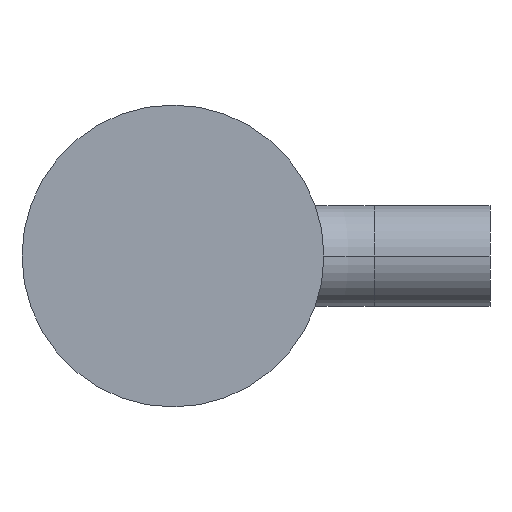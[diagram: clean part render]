
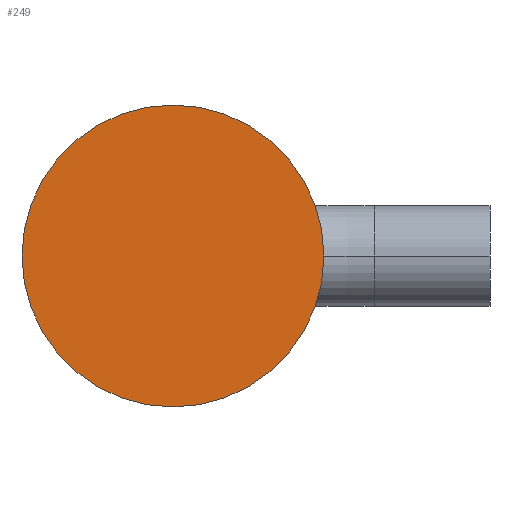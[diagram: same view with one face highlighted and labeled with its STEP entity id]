
A CAD part, left-side view. The second image highlights one B-rep face of the part: STEP entity #249.
In plain terms, the highlighted planar face has unit normal (-1, 0, 0).
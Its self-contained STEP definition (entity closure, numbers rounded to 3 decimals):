
#83=CARTESIAN_POINT('',(19.3,0.,0.));
#84=DIRECTION('',(1.,0.,0.));
#85=DIRECTION('',(0.,1.,0.));
#86=AXIS2_PLACEMENT_3D('',#83,#84,#85);
#88=CARTESIAN_POINT('',(19.3,0.,0.));
#89=DIRECTION('',(-1.,0.,0.));
#90=DIRECTION('',(0.,1.,0.));
#91=AXIS2_PLACEMENT_3D('',#88,#89,#90);
#153=CARTESIAN_POINT('',(19.3,30.,0.));
#155=VERTEX_POINT('',#153);
#157=CARTESIAN_POINT('',(19.3,-30.,0.));
#159=VERTEX_POINT('',#157);
#240=CARTESIAN_POINT('',(19.3,0.,0.));
#241=DIRECTION('',(-1.,0.,0.));
#242=DIRECTION('',(0.,1.,0.));
#243=AXIS2_PLACEMENT_3D('',#240,#241,#242);
#244=PLANE('',#243);
#245=ORIENTED_EDGE('',*,*,#222,.T.);
#246=ORIENTED_EDGE('',*,*,#233,.F.);
#247=EDGE_LOOP('',(#245,#246));
#248=FACE_OUTER_BOUND('',#247,.F.);
#87=CIRCLE('',#86,30.);
#92=CIRCLE('',#91,30.);
#222=EDGE_CURVE('',#155,#159,#87,.T.);
#233=EDGE_CURVE('',#155,#159,#92,.T.);
#249=ADVANCED_FACE('',(#248),#244,.T.);
